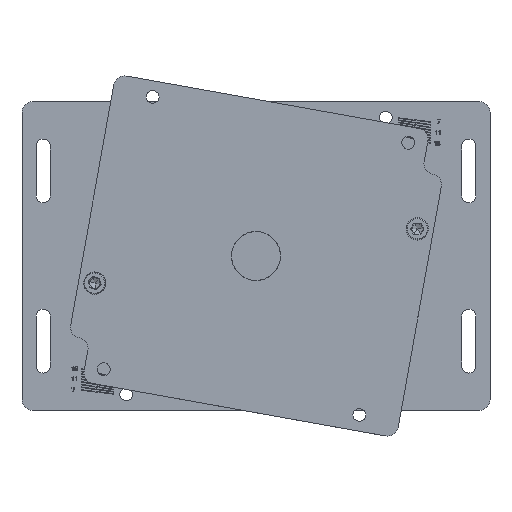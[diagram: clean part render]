
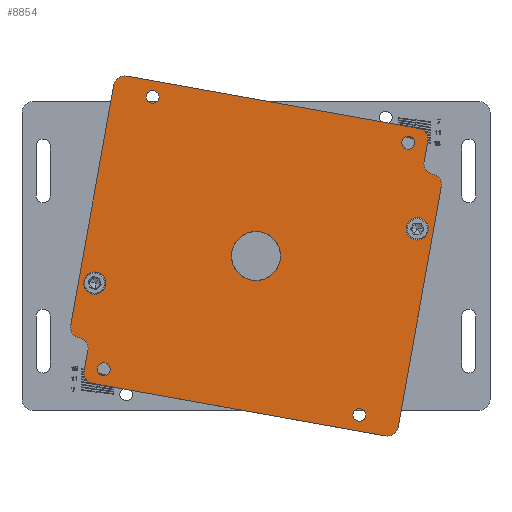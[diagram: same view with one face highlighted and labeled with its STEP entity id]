
A CAD part, top view. The second image highlights one B-rep face of the part: STEP entity #8854.
In plain terms, the highlighted planar face has unit normal (0, 0, 1) as drawn and (0, 0, -1) by its records, which use the part's own axes.
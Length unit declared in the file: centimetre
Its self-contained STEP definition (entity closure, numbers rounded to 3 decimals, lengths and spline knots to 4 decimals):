
#392=CIRCLE('',#855,0.5);
#393=CIRCLE('',#858,0.5);
#394=CIRCLE('',#859,0.5);
#395=CIRCLE('',#860,0.5);
#396=CIRCLE('',#861,0.5);
#397=CIRCLE('',#862,0.5);
#398=CIRCLE('',#863,0.5);
#399=CIRCLE('',#864,0.5);
#400=CIRCLE('',#865,0.3);
#401=CIRCLE('',#866,0.3);
#402=CIRCLE('',#867,0.3);
#403=CIRCLE('',#868,0.3);
#404=CIRCLE('',#869,1.15);
#405=CIRCLE('',#870,0.525);
#406=CIRCLE('',#871,0.525);
#855=AXIS2_PLACEMENT_3D('',#10719,#3382,#3383);
#857=AXIS2_PLACEMENT_3D('',#10728,#3389,$);
#858=AXIS2_PLACEMENT_3D('',#10731,#3391,#3392);
#859=AXIS2_PLACEMENT_3D('',#10735,#3394,#3395);
#860=AXIS2_PLACEMENT_3D('',#10737,#3396,#3397);
#861=AXIS2_PLACEMENT_3D('',#10741,#3399,#3400);
#862=AXIS2_PLACEMENT_3D('',#10745,#3402,#3403);
#863=AXIS2_PLACEMENT_3D('',#10749,#3405,#3406);
#864=AXIS2_PLACEMENT_3D('',#10751,#3407,#3408);
#865=AXIS2_PLACEMENT_3D('',#10752,#3409,#3410);
#866=AXIS2_PLACEMENT_3D('',#10754,#3411,#3412);
#867=AXIS2_PLACEMENT_3D('',#10756,#3413,#3414);
#868=AXIS2_PLACEMENT_3D('',#10758,#3415,#3416);
#869=AXIS2_PLACEMENT_3D('',#10760,#3417,#3418);
#870=AXIS2_PLACEMENT_3D('',#10762,#3419,#3420);
#871=AXIS2_PLACEMENT_3D('',#10764,#3421,#3422);
#1281=PLANE('',#857);
#1807=VECTOR('',#3386,1.);
#1810=VECTOR('',#3390,1.);
#1811=VECTOR('',#3393,1.);
#1812=VECTOR('',#3398,1.);
#1813=VECTOR('',#3401,1.);
#1814=VECTOR('',#3404,1.);
#2379=LINE('',#10723,#1807);
#2382=LINE('',#10729,#1810);
#2383=LINE('',#10733,#1811);
#2384=LINE('',#10739,#1812);
#2385=LINE('',#10743,#1813);
#2386=LINE('',#10747,#1814);
#3382=DIRECTION('',(0.,0.,1.));
#3383=DIRECTION('',(0.354,-0.354,0.));
#3386=DIRECTION('',(0.,-1.,0.));
#3389=DIRECTION('',(0.,0.,1.));
#3390=DIRECTION('',(1.,0.,0.));
#3391=DIRECTION('',(0.,0.,1.));
#3392=DIRECTION('',(-0.354,-0.354,0.));
#3393=DIRECTION('',(0.,-1.,0.));
#3394=DIRECTION('',(0.,0.,1.));
#3395=DIRECTION('',(-0.354,0.354,0.));
#3396=DIRECTION('',(0.,0.,-1.));
#3397=DIRECTION('',(0.354,-0.354,0.));
#3398=DIRECTION('',(0.,1.,0.));
#3399=DIRECTION('',(0.,0.,1.));
#3400=DIRECTION('',(-0.354,0.354,0.));
#3401=DIRECTION('',(-1.,0.,0.));
#3402=DIRECTION('',(0.,0.,1.));
#3403=DIRECTION('',(0.354,0.354,0.));
#3404=DIRECTION('',(0.,1.,0.));
#3405=DIRECTION('',(0.,0.,1.));
#3406=DIRECTION('',(0.354,-0.354,0.));
#3407=DIRECTION('',(0.,0.,-1.));
#3408=DIRECTION('',(-0.354,0.354,0.));
#3409=DIRECTION('',(0.,0.,1.));
#3410=DIRECTION('',(0.,0.3,0.));
#3411=DIRECTION('',(0.,0.,1.));
#3412=DIRECTION('',(0.,0.3,0.));
#3413=DIRECTION('',(0.,0.,1.));
#3414=DIRECTION('',(0.,0.3,0.));
#3415=DIRECTION('',(0.,0.,1.));
#3416=DIRECTION('',(0.,0.3,0.));
#3417=DIRECTION('',(0.,0.,1.));
#3418=DIRECTION('',(1.15,0.,0.));
#3419=DIRECTION('',(0.,0.,1.));
#3420=DIRECTION('',(-0.525,0.,0.));
#3421=DIRECTION('',(0.,0.,1.));
#3422=DIRECTION('',(-0.525,0.,0.));
#4369=VERTEX_POINT('',#10718);
#4370=VERTEX_POINT('',#10720);
#4371=VERTEX_POINT('',#10724);
#4373=VERTEX_POINT('',#10730);
#4374=VERTEX_POINT('',#10732);
#4375=VERTEX_POINT('',#10734);
#4376=VERTEX_POINT('',#10736);
#4377=VERTEX_POINT('',#10738);
#4378=VERTEX_POINT('',#10740);
#4379=VERTEX_POINT('',#10742);
#4380=VERTEX_POINT('',#10744);
#4381=VERTEX_POINT('',#10746);
#4382=VERTEX_POINT('',#10748);
#4383=VERTEX_POINT('',#10750);
#4384=VERTEX_POINT('',#10753);
#4385=VERTEX_POINT('',#10755);
#4386=VERTEX_POINT('',#10757);
#4387=VERTEX_POINT('',#10759);
#4388=VERTEX_POINT('',#10761);
#4389=VERTEX_POINT('',#10763);
#4390=VERTEX_POINT('',#10765);
#5357=EDGE_CURVE('',#4369,#4370,#392,.T.);
#5359=EDGE_CURVE('',#4371,#4370,#2379,.T.);
#5362=EDGE_CURVE('',#4373,#4369,#2382,.T.);
#5363=EDGE_CURVE('',#4374,#4373,#393,.T.);
#5364=EDGE_CURVE('',#4375,#4374,#2383,.T.);
#5365=EDGE_CURVE('',#4376,#4375,#394,.T.);
#5366=EDGE_CURVE('',#4377,#4376,#395,.T.);
#5367=EDGE_CURVE('',#4377,#4378,#2384,.T.);
#5368=EDGE_CURVE('',#4379,#4378,#396,.T.);
#5369=EDGE_CURVE('',#4380,#4379,#2385,.T.);
#5370=EDGE_CURVE('',#4381,#4380,#397,.T.);
#5371=EDGE_CURVE('',#4382,#4381,#2386,.T.);
#5372=EDGE_CURVE('',#4383,#4382,#398,.T.);
#5373=EDGE_CURVE('',#4371,#4383,#399,.T.);
#5374=EDGE_CURVE('',#4384,#4384,#400,.T.);
#5375=EDGE_CURVE('',#4385,#4385,#401,.T.);
#5376=EDGE_CURVE('',#4386,#4386,#402,.T.);
#5377=EDGE_CURVE('',#4387,#4387,#403,.T.);
#5378=EDGE_CURVE('',#4388,#4388,#404,.T.);
#5379=EDGE_CURVE('',#4389,#4389,#405,.T.);
#5380=EDGE_CURVE('',#4390,#4390,#406,.T.);
#6969=ORIENTED_EDGE('',*,*,#5357,.F.);
#6970=ORIENTED_EDGE('',*,*,#5362,.F.);
#6971=ORIENTED_EDGE('',*,*,#5363,.F.);
#6972=ORIENTED_EDGE('',*,*,#5364,.F.);
#6973=ORIENTED_EDGE('',*,*,#5365,.F.);
#6974=ORIENTED_EDGE('',*,*,#5366,.F.);
#6975=ORIENTED_EDGE('',*,*,#5367,.T.);
#6976=ORIENTED_EDGE('',*,*,#5368,.F.);
#6977=ORIENTED_EDGE('',*,*,#5369,.F.);
#6978=ORIENTED_EDGE('',*,*,#5370,.F.);
#6979=ORIENTED_EDGE('',*,*,#5371,.F.);
#6980=ORIENTED_EDGE('',*,*,#5372,.F.);
#6981=ORIENTED_EDGE('',*,*,#5373,.F.);
#6982=ORIENTED_EDGE('',*,*,#5359,.T.);
#6983=ORIENTED_EDGE('',*,*,#5374,.T.);
#6984=ORIENTED_EDGE('',*,*,#5375,.T.);
#6985=ORIENTED_EDGE('',*,*,#5376,.T.);
#6986=ORIENTED_EDGE('',*,*,#5377,.T.);
#6987=ORIENTED_EDGE('',*,*,#5378,.T.);
#6988=ORIENTED_EDGE('',*,*,#5379,.T.);
#6989=ORIENTED_EDGE('',*,*,#5380,.T.);
#7887=EDGE_LOOP('',(#6969,#6970,#6971,#6972,#6973,#6974,#6975,#6976,#6977,
#6978,#6979,#6980,#6981,#6982));
#7888=EDGE_LOOP('',(#6983));
#7889=EDGE_LOOP('',(#6984));
#7890=EDGE_LOOP('',(#6985));
#7891=EDGE_LOOP('',(#6986));
#7892=EDGE_LOOP('',(#6987));
#7893=EDGE_LOOP('',(#6988));
#7894=EDGE_LOOP('',(#6989));
#8409=FACE_BOUND('',#7887,.T.);
#8410=FACE_BOUND('',#7888,.T.);
#8411=FACE_BOUND('',#7889,.T.);
#8412=FACE_BOUND('',#7890,.T.);
#8413=FACE_BOUND('',#7891,.T.);
#8414=FACE_BOUND('',#7892,.T.);
#8415=FACE_BOUND('',#7893,.T.);
#8416=FACE_BOUND('',#7894,.T.);
#8854=ADVANCED_FACE('',(#8409,#8410,#8411,#8412,#8413,#8414,#8415,#8416),
#1281,.F.);
#10718=CARTESIAN_POINT('',(6.5,-7.25,0.));
#10719=CARTESIAN_POINT('',(6.5,-6.75,0.));
#10720=CARTESIAN_POINT('',(7.,-6.75,0.));
#10723=CARTESIAN_POINT('',(7.,-3.,0.));
#10724=CARTESIAN_POINT('',(7.,-5.75,0.));
#10728=CARTESIAN_POINT('',(0.,0.,0.));
#10729=CARTESIAN_POINT('',(-8.,-7.25,0.));
#10730=CARTESIAN_POINT('',(-7.5,-7.25,0.));
#10731=CARTESIAN_POINT('',(-7.5,-6.75,0.));
#10732=CARTESIAN_POINT('',(-8.,-6.75,0.));
#10733=CARTESIAN_POINT('',(-8.,7.25,0.));
#10734=CARTESIAN_POINT('',(-8.,4.75,0.));
#10735=CARTESIAN_POINT('',(-7.5,4.75,0.));
#10736=CARTESIAN_POINT('',(-7.5,5.25,0.));
#10737=CARTESIAN_POINT('',(-7.5,5.75,0.));
#10738=CARTESIAN_POINT('',(-7.,5.75,0.));
#10739=CARTESIAN_POINT('',(-7.,3.,0.));
#10740=CARTESIAN_POINT('',(-7.,6.75,0.));
#10741=CARTESIAN_POINT('',(-6.5,6.75,0.));
#10742=CARTESIAN_POINT('',(-6.5,7.25,0.));
#10743=CARTESIAN_POINT('',(8.,7.25,0.));
#10744=CARTESIAN_POINT('',(7.5,7.25,0.));
#10745=CARTESIAN_POINT('',(7.5,6.75,0.));
#10746=CARTESIAN_POINT('',(8.,6.75,0.));
#10747=CARTESIAN_POINT('',(8.,-7.25,0.));
#10748=CARTESIAN_POINT('',(8.,-4.75,0.));
#10749=CARTESIAN_POINT('',(7.5,-4.75,0.));
#10750=CARTESIAN_POINT('',(7.5,-5.25,0.));
#10751=CARTESIAN_POINT('',(7.5,-5.75,0.));
#10752=CARTESIAN_POINT('',(-6.1,6.5,0.));
#10753=CARTESIAN_POINT('',(-6.1,6.2,0.));
#10754=CARTESIAN_POINT('',(6.1,6.5,0.));
#10755=CARTESIAN_POINT('',(6.1,6.2,0.));
#10756=CARTESIAN_POINT('',(6.1,-6.5,0.));
#10757=CARTESIAN_POINT('',(6.1,-6.8,0.));
#10758=CARTESIAN_POINT('',(-6.1,-6.5,0.));
#10759=CARTESIAN_POINT('',(-6.1,-6.8,0.));
#10760=CARTESIAN_POINT('',(0.,0.,0.));
#10761=CARTESIAN_POINT('',(-1.15,0.,0.));
#10762=CARTESIAN_POINT('',(7.2399,-2.5923,0.));
#10763=CARTESIAN_POINT('',(6.7149,-2.5923,0.));
#10764=CARTESIAN_POINT('',(-7.2399,2.5923,0.));
#10765=CARTESIAN_POINT('',(-7.7649,2.5923,0.));
